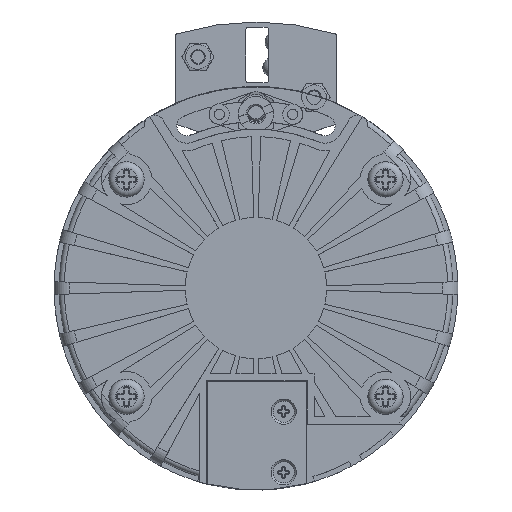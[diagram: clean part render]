
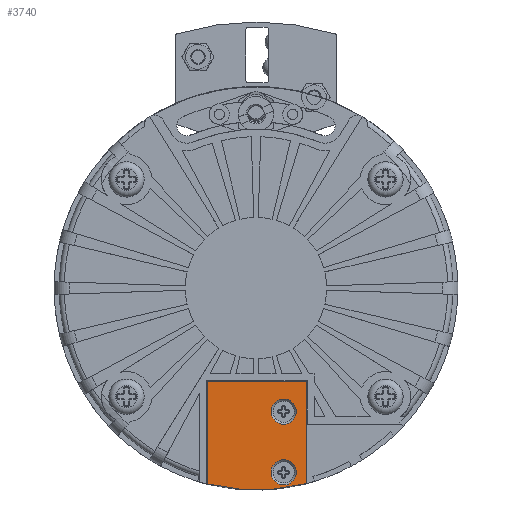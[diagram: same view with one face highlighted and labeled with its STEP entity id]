
A CAD part, top view. The second image highlights one B-rep face of the part: STEP entity #3740.
In plain terms, the highlighted planar face has unit normal (0, 0, 1).
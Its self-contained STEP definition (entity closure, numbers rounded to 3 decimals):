
#3740 = ADVANCED_FACE( '', ( #7764, #7765, #7766 ), #7767, .T. );
#7764 = FACE_OUTER_BOUND( '', #21139, .T. );
#7765 = FACE_BOUND( '', #21140, .T. );
#7766 = FACE_BOUND( '', #21141, .T. );
#7767 = PLANE( '', #21142 );
#21139 = EDGE_LOOP( '', ( #33027, #33028, #33029, #33030 ) );
#21140 = EDGE_LOOP( '', ( #33031 ) );
#21141 = EDGE_LOOP( '', ( #33032 ) );
#21142 = AXIS2_PLACEMENT_3D( '', #33033, #33034, #33035 );
#33027 = ORIENTED_EDGE( '', *, *, #35908, .T. );
#33028 = ORIENTED_EDGE( '', *, *, #34955, .T. );
#33029 = ORIENTED_EDGE( '', *, *, #35483, .T. );
#33030 = ORIENTED_EDGE( '', *, *, #37907, .T. );
#33031 = ORIENTED_EDGE( '', *, *, #34127, .T. );
#33032 = ORIENTED_EDGE( '', *, *, #35262, .T. );
#33033 = CARTESIAN_POINT( '', ( 0., 0., 25. ) );
#33034 = DIRECTION( '', ( 0., 0., 1. ) );
#33035 = DIRECTION( '', ( -1., 0., 0. ) );
#34127 = EDGE_CURVE( '', #38733, #38733, #38734, .T. );
#34955 = EDGE_CURVE( '', #40159, #40163, #40165, .T. );
#35262 = EDGE_CURVE( '', #40659, #40659, #40660, .T. );
#35483 = EDGE_CURVE( '', #40163, #41017, #41019, .T. );
#35908 = EDGE_CURVE( '', #41671, #40159, #41672, .T. );
#37907 = EDGE_CURVE( '', #41017, #41671, #44261, .T. );
#38733 = VERTEX_POINT( '', #45387 );
#38734 = CIRCLE( '', #45388, 2.5 );
#40159 = VERTEX_POINT( '', #47673 );
#40163 = VERTEX_POINT( '', #47679 );
#40165 = LINE( '', #47682, #47683 );
#40659 = VERTEX_POINT( '', #49253 );
#40660 = CIRCLE( '', #49254, 2.5 );
#41017 = VERTEX_POINT( '', #50413 );
#41019 = LINE( '', #50416, #50417 );
#41671 = VERTEX_POINT( '', #52208 );
#41672 = LINE( '', #52209, #52210 );
#44261 = CIRCLE( '', #57507, 40. );
#45387 = CARTESIAN_POINT( '', ( 5.5, -39., 25. ) );
#45388 = AXIS2_PLACEMENT_3D( '', #58431, #58432, #58433 );
#47673 = CARTESIAN_POINT( '', ( 10., -18.5, 25. ) );
#47679 = CARTESIAN_POINT( '', ( -9.7, -18.5, 25. ) );
#47682 = CARTESIAN_POINT( '', ( 10., -18.5, 25. ) );
#47683 = VECTOR( '', #59425, 1000. );
#49253 = CARTESIAN_POINT( '', ( 5.5, -27., 25. ) );
#49254 = AXIS2_PLACEMENT_3D( '', #59790, #59791, #59792 );
#50413 = CARTESIAN_POINT( '', ( -9.7, -38.806, 25. ) );
#50416 = CARTESIAN_POINT( '', ( -9.7, -38.806, 25. ) );
#50417 = VECTOR( '', #60052, 1000. );
#52208 = CARTESIAN_POINT( '', ( 10., -38.73, 25. ) );
#52209 = CARTESIAN_POINT( '', ( 10., -38.73, 25. ) );
#52210 = VECTOR( '', #60489, 1000. );
#57507 = AXIS2_PLACEMENT_3D( '', #62483, #62484, #62485 );
#58431 = CARTESIAN_POINT( '', ( 5.5, -36.5, 25. ) );
#58432 = DIRECTION( '', ( 0., 0., -1. ) );
#58433 = DIRECTION( '', ( 0., -1., 0. ) );
#59425 = DIRECTION( '', ( -1., 0., 0. ) );
#59790 = CARTESIAN_POINT( '', ( 5.5, -24.5, 25. ) );
#59791 = DIRECTION( '', ( 0., 0., -1. ) );
#59792 = DIRECTION( '', ( 0., -1., 0. ) );
#60052 = DIRECTION( '', ( 0., -1., 0. ) );
#60489 = DIRECTION( '', ( 0., 1., 0. ) );
#62483 = CARTESIAN_POINT( '', ( 0., 0., 25. ) );
#62484 = DIRECTION( '', ( 0., 0., 1. ) );
#62485 = DIRECTION( '', ( -1., 0., 0. ) );
